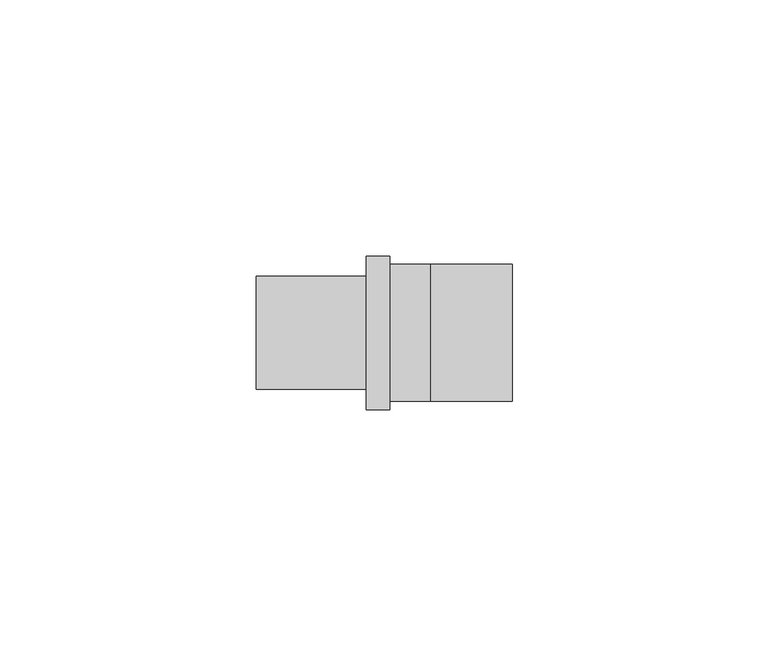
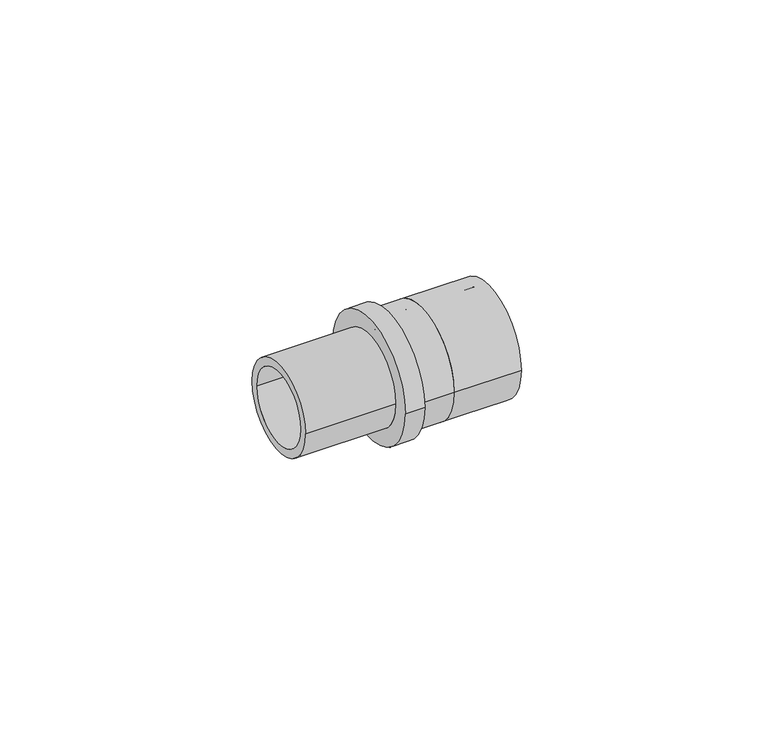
"""IFC4 building model written with IfcOpenShell, lengths in millimetres: pipe fitting geometry, Adapter with welding end : A welding LX."""

from ifc_helpers import new_model, si_unit, point, frame, origin, origin_2d, place, context, project, spatial, polyline, circle_curve, trimmed, segment, composite_curve, outline, extrude, source, transform, mapped, element, save
from ifc_brep_helpers import plane_surface, cylinder_surface, revolved_surface, advanced_brep


def pipe_fitting_be5980b3(model_context):
    return source(origin(), model_context, "Body", "SolidModel", [
        advanced_brep(
        [(0.0, 13.4, 0.0), (0.0, -13.4, 0.0), (-7.9, -13.4, 0.0), (-7.9, 13.4, 0.0), (-7.9, 10.95, 0.0), (-7.9, -10.95, 0.0), (0.0, -10.95, 0.0), (0.0, 10.95, 0.0), (-34.0, 9.0, 0.0), (-34.0, -9.0, 0.0), (-7.9, -9.0, 0.0), (-7.9, 9.0, 0.0), (-12.5, 11.0, 0.0), (-12.5, -11.0, 0.0), (-34.0, -11.0, 0.0), (-34.0, 11.0, 0.0), (-7.9, 15.0, 0.0), (-7.9, -15.0, 0.0), (-12.5, -15.0, 0.0), (-12.5, 15.0, 0.0)],
        [
            (0, 1, circle_curve(frame((0.0, 0.0, 0.0), z_axis=(-1.0, 0.0, 0.0), x_axis=(0.0, -1.0, 0.0)), 13.4)),
            (1, 2),
            (2, 3, circle_curve(frame((-7.9, 0.0, 0.0), z_axis=(1.0, 0.0, 0.0), x_axis=(0.0, -1.0, 0.0)), 13.4)),
            (3, 0),
            (4, 5, circle_curve(frame((-7.9, 0.0, 0.0), z_axis=(-1.0, 0.0, 0.0), x_axis=(0.0, -1.0, 0.0)), 10.95)),
            (5, 6),
            (6, 7, circle_curve(frame((0.0, 0.0, 0.0), z_axis=(1.0, 0.0, 0.0), x_axis=(0.0, -1.0, 0.0)), 10.95)),
            (7, 4),
            (8, 9, circle_curve(frame((-34.0, 0.0, 0.0), z_axis=(-1.0, 0.0, 0.0), x_axis=(0.0, -1.0, 0.0)), 9.0)),
            (9, 10),
            (10, 11, circle_curve(frame((-7.9, 0.0, 0.0), z_axis=(1.0, 0.0, 0.0), x_axis=(0.0, -1.0, 0.0)), 9.0)),
            (11, 8),
            (12, 13, circle_curve(frame((-12.5, 0.0, 0.0), z_axis=(-1.0, 0.0, 0.0), x_axis=(0.0, -1.0, 0.0)), 11.0)),
            (13, 14),
            (14, 15, circle_curve(frame((-34.0, 0.0, 0.0), z_axis=(1.0, 0.0, 0.0), x_axis=(0.0, -1.0, 0.0)), 11.0)),
            (15, 12),
            (16, 17, circle_curve(frame((-7.9, 0.0, 0.0), z_axis=(-1.0, 0.0, 0.0), x_axis=(0.0, -1.0, 0.0)), 15.0)),
            (17, 18),
            (18, 19, circle_curve(frame((-12.5, 0.0, 0.0), z_axis=(1.0, 0.0, 0.0), x_axis=(0.0, -1.0, 0.0)), 15.0)),
            (19, 16),
            (16, 17, circle_curve(frame((-7.9, 0.0, 0.0), z_axis=(1.0, 0.0, 0.0), x_axis=(0.0, 1.0, 0.0)), 15.0)),
            (2, 3, circle_curve(frame((-7.9, 0.0, 0.0), z_axis=(-1.0, 0.0, 0.0), x_axis=(0.0, 1.0, 0.0)), 13.4)),
            (1, 0, circle_curve(frame((0.0, 0.0, 0.0), z_axis=(-1.0, 0.0, 0.0), x_axis=(0.0, 1.0, 0.0)), 13.4)),
            (6, 7, circle_curve(frame((0.0, 0.0, 0.0), z_axis=(-1.0, 0.0, 0.0), x_axis=(0.0, 1.0, 0.0)), 10.95)),
            (5, 4, circle_curve(frame((-7.9, 0.0, 0.0), z_axis=(-1.0, 0.0, 0.0), x_axis=(0.0, 1.0, 0.0)), 10.95)),
            (10, 11, circle_curve(frame((-7.9, 0.0, 0.0), z_axis=(-1.0, 0.0, 0.0), x_axis=(0.0, 1.0, 0.0)), 9.0)),
            (9, 8, circle_curve(frame((-34.0, 0.0, 0.0), z_axis=(-1.0, 0.0, 0.0), x_axis=(0.0, 1.0, 0.0)), 9.0)),
            (14, 15, circle_curve(frame((-34.0, 0.0, 0.0), z_axis=(-1.0, 0.0, 0.0), x_axis=(0.0, 1.0, 0.0)), 11.0)),
            (13, 12, circle_curve(frame((-12.5, 0.0, 0.0), z_axis=(-1.0, 0.0, 0.0), x_axis=(0.0, 1.0, 0.0)), 11.0)),
            (18, 19, circle_curve(frame((-12.5, 0.0, 0.0), z_axis=(-1.0, 0.0, 0.0), x_axis=(0.0, 1.0, 0.0)), 15.0)),
        ],
        [
            cylinder_surface(frame((0.0, 0.0, 0.0), z_axis=(1.0, 0.0, 0.0), x_axis=(0.0, -1.0, 0.0)), 13.4),
            revolved_surface(polyline([(0.0, -10.95, 0.0), (-7.9, -10.95, 0.0)]), (0.0, 0.0, 0.0), (1.0, 0.0, 0.0)),
            revolved_surface(polyline([(-7.9, -9.0, 0.0), (-34.0, -9.0, 0.0)]), (0.0, 0.0, 0.0), (1.0, 0.0, 0.0)),
            cylinder_surface(frame((0.0, 0.0, 0.0), z_axis=(1.0, 0.0, 0.0), x_axis=(0.0, -1.0, 0.0)), 11.0),
            cylinder_surface(frame((0.0, 0.0, 0.0), z_axis=(1.0, 0.0, 0.0), x_axis=(0.0, -1.0, 0.0)), 15.0),
            plane_surface(frame((-7.9, 0.0, 0.0), z_axis=(1.0, 0.0, 0.0), x_axis=(0.0, 1.0, 0.0))),
            cylinder_surface(frame((0.0, 0.0, 0.0), z_axis=(1.0, 0.0, 0.0), x_axis=(0.0, 1.0, 0.0)), 13.4),
            plane_surface(frame((0.0, 0.0, 0.0), z_axis=(1.0, 0.0, 0.0), x_axis=(0.0, 1.0, 0.0))),
            revolved_surface(polyline([(0.0, 10.95, 0.0), (-7.9, 10.95, 0.0)]), (0.0, 0.0, 0.0), (1.0, 0.0, 0.0)),
            revolved_surface(polyline([(-7.9, 9.0, 0.0), (-34.0, 9.0, 0.0)]), (0.0, 0.0, 0.0), (1.0, 0.0, 0.0)),
            plane_surface(frame((-34.0, 0.0, 0.0), z_axis=(-1.0, 0.0, 0.0), x_axis=(0.0, 1.0, 0.0))),
            cylinder_surface(frame((0.0, 0.0, 0.0), z_axis=(1.0, 0.0, 0.0), x_axis=(0.0, 1.0, 0.0)), 11.0),
            plane_surface(frame((-12.5, 0.0, 0.0), z_axis=(-1.0, 0.0, 0.0), x_axis=(0.0, 1.0, 0.0))),
            cylinder_surface(frame((0.0, 0.0, 0.0), z_axis=(1.0, 0.0, 0.0), x_axis=(0.0, 1.0, 0.0)), 15.0),
        ],
        [
            (0, [[1, 2, 3, 4]]),
            (1, [[5, 6, 7, 8]]),
            (2, [[9, 10, 11, 12]]),
            (3, [[13, 14, 15, 16]]),
            (4, [[17, 18, 19, 20]]),
            (5, [[21, -17], [22, -3]]),
            (6, [[23, -4, -22, -2]]),
            (7, [[-23, -1], [24, -7]]),
            (8, [[25, -8, -24, -6]]),
            (5, [[-25, -5], [26, -11]]),
            (9, [[27, -12, -26, -10]]),
            (10, [[28, -15], [-27, -9]]),
            (11, [[29, -16, -28, -14]]),
            (12, [[30, -19], [-29, -13]]),
            (13, [[-21, -20, -30, -18]]),
        ],
    ),
        extrude(outline(composite_curve([segment(trimmed(circle_curve(origin_2d(), 13.4), [point((-13.4, 0.0))], [point((13.4, 0.0))], False, "CARTESIAN"), True, "CONTINUOUS"), segment(trimmed(circle_curve(origin_2d(), 13.4), [point((13.4, 0.0))], [point((-13.4, 0.0))], False, "CARTESIAN"), True, "CONTINUOUS")], self_intersect=False), holes=[composite_curve([segment(trimmed(circle_curve(origin_2d(), 10.95), [point((10.95, 0.0))], [point((-10.95, 0.0))], True, "CARTESIAN"), True, "CONTINUOUS"), segment(trimmed(circle_curve(origin_2d(), 10.95), [point((-10.95, 0.0))], [point((10.95, 0.0))], True, "CARTESIAN"), True, "CONTINUOUS")], self_intersect=False)]), frame((0.0, 0.0, 0.0), z_axis=(1.0, 0.0, 0.0), x_axis=(0.0, 1.0, 0.0)), (0.0, 0.0, 1.0), 16.0),
    ])


if __name__ == "__main__":
    model = new_model("IFC4")
    model_context = context("Model", 3, world=origin())
    ifc_project = project(units=[si_unit("LENGTHUNIT", "METRE", prefix="MILLI")], contexts=[model_context])
    site = spatial("IfcSite", under=ifc_project)
    building = spatial("IfcBuilding", under=site)
    placement = place(None, origin())
    pipe_fitting_shape = pipe_fitting_be5980b3(model_context)
    element("IfcPipeFitting", 1, ObjectType="Adapter with welding end : A welding LX", at=placement, inside=building, context=model_context, shape_type="MappedRepresentation", body=[
        mapped(pipe_fitting_shape, transform((0.0, 0.0, 0.0), x_axis=(1.0, 0.0, 0.0), y_axis=(0.0, 1.0, 0.0), z_axis=(0.0, 0.0, 1.0))),
    ])
    save(model, "model.ifc")
